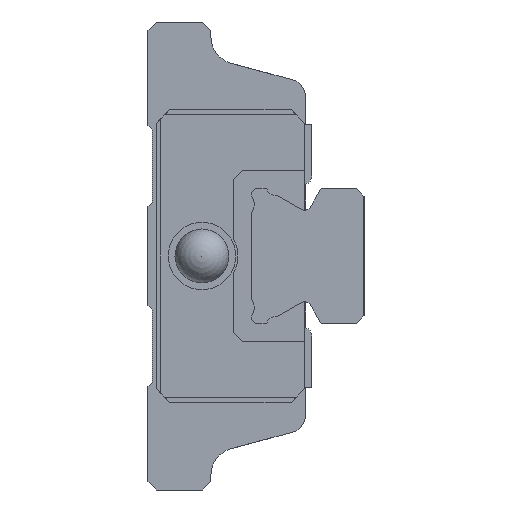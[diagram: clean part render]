
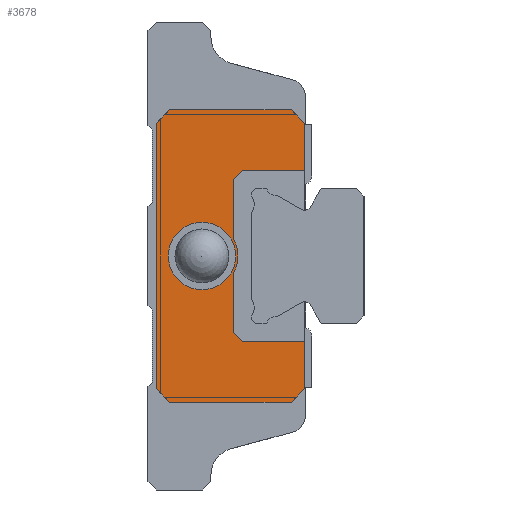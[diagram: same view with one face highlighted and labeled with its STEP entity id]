
A CAD part, left-side view. The second image highlights one B-rep face of the part: STEP entity #3678.
In plain terms, the highlighted planar face has unit normal (-1, 0, 0).
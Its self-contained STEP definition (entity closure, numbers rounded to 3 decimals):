
#36=LINE('',#5289,#396);
#82=LINE('',#5382,#442);
#97=LINE('',#5413,#457);
#104=LINE('',#5427,#464);
#108=LINE('',#5434,#468);
#116=LINE('',#5451,#476);
#119=LINE('',#5456,#479);
#127=LINE('',#5468,#487);
#158=LINE('',#5546,#518);
#269=LINE('',#5840,#629);
#274=LINE('',#5854,#634);
#275=LINE('',#5856,#635);
#276=LINE('',#5858,#636);
#277=LINE('',#5859,#637);
#278=LINE('',#5861,#638);
#396=VECTOR('',#4230,1000.);
#442=VECTOR('',#4294,1000.);
#457=VECTOR('',#4311,1000.);
#464=VECTOR('',#4322,1000.);
#468=VECTOR('',#4328,1000.);
#476=VECTOR('',#4338,1000.);
#479=VECTOR('',#4343,1000.);
#487=VECTOR('',#4359,1000.);
#518=VECTOR('',#4422,1000.);
#629=VECTOR('',#4681,1000.);
#634=VECTOR('',#4696,1000.);
#635=VECTOR('',#4697,1000.);
#636=VECTOR('',#4698,1000.);
#637=VECTOR('',#4699,1000.);
#638=VECTOR('',#4700,1000.);
#834=PLANE('',#3964);
#1476=ORIENTED_EDGE('',*,*,#1991,.T.);
#1477=ORIENTED_EDGE('',*,*,#2267,.F.);
#1478=ORIENTED_EDGE('',*,*,#2268,.T.);
#1479=ORIENTED_EDGE('',*,*,#2269,.T.);
#1480=ORIENTED_EDGE('',*,*,#2270,.T.);
#1481=ORIENTED_EDGE('',*,*,#2121,.F.);
#1482=ORIENTED_EDGE('',*,*,#2063,.F.);
#1483=ORIENTED_EDGE('',*,*,#2059,.F.);
#1484=ORIENTED_EDGE('',*,*,#2052,.F.);
#1485=ORIENTED_EDGE('',*,*,#2082,.F.);
#1486=ORIENTED_EDGE('',*,*,#2037,.F.);
#1487=ORIENTED_EDGE('',*,*,#2074,.F.);
#1488=ORIENTED_EDGE('',*,*,#2071,.F.);
#1489=ORIENTED_EDGE('',*,*,#2260,.F.);
#1490=ORIENTED_EDGE('',*,*,#2271,.T.);
#1491=ORIENTED_EDGE('',*,*,#2272,.T.);
#1492=ORIENTED_EDGE('',*,*,#2273,.T.);
#1991=EDGE_CURVE('',#2494,#2493,#36,.T.);
#2037=EDGE_CURVE('',#2531,#2532,#82,.T.);
#2052=EDGE_CURVE('',#2546,#2547,#97,.T.);
#2059=EDGE_CURVE('',#2547,#2552,#104,.T.);
#2063=EDGE_CURVE('',#2552,#2554,#108,.T.);
#2071=EDGE_CURVE('',#2561,#2562,#116,.T.);
#2074=EDGE_CURVE('',#2562,#2531,#119,.T.);
#2082=EDGE_CURVE('',#2532,#2546,#127,.T.);
#2121=EDGE_CURVE('',#2554,#2594,#158,.T.);
#2260=EDGE_CURVE('',#2682,#2561,#269,.T.);
#2267=EDGE_CURVE('',#2686,#2493,#2875,.T.);
#2268=EDGE_CURVE('',#2686,#2687,#274,.T.);
#2269=EDGE_CURVE('',#2687,#2688,#275,.T.);
#2270=EDGE_CURVE('',#2688,#2594,#276,.T.);
#2271=EDGE_CURVE('',#2682,#2689,#277,.T.);
#2272=EDGE_CURVE('',#2689,#2494,#278,.T.);
#2273=EDGE_CURVE('',#2690,#2690,#2876,.T.);
#2493=VERTEX_POINT('',#5288);
#2494=VERTEX_POINT('',#5290);
#2531=VERTEX_POINT('',#5381);
#2532=VERTEX_POINT('',#5383);
#2546=VERTEX_POINT('',#5412);
#2547=VERTEX_POINT('',#5414);
#2552=VERTEX_POINT('',#5428);
#2554=VERTEX_POINT('',#5435);
#2561=VERTEX_POINT('',#5450);
#2562=VERTEX_POINT('',#5452);
#2594=VERTEX_POINT('',#5547);
#2682=VERTEX_POINT('',#5839);
#2686=VERTEX_POINT('',#5853);
#2687=VERTEX_POINT('',#5855);
#2688=VERTEX_POINT('',#5857);
#2689=VERTEX_POINT('',#5860);
#2690=VERTEX_POINT('',#5863);
#2875=CIRCLE('',#3965,4.);
#2876=CIRCLE('',#3966,2.);
#3073=EDGE_LOOP('',(#1476,#1477,#1478,#1479,#1480,#1481,#1482,#1483,#1484,
#1485,#1486,#1487,#1488,#1489,#1490,#1491));
#3074=EDGE_LOOP('',(#1492));
#3381=FACE_BOUND('',#3073,.T.);
#3382=FACE_BOUND('',#3074,.T.);
#3678=ADVANCED_FACE('',(#3381,#3382),#834,.F.);
#3964=AXIS2_PLACEMENT_3D('',#5851,#4692,#4693);
#3965=AXIS2_PLACEMENT_3D('',#5852,#4694,#4695);
#3966=AXIS2_PLACEMENT_3D('',#5862,#4701,#4702);
#4230=DIRECTION('',(0.,0.,1.));
#4294=DIRECTION('',(0.,0.707,0.707));
#4311=DIRECTION('',(0.,-0.707,0.707));
#4322=DIRECTION('',(0.,-1.,0.));
#4328=DIRECTION('',(0.,-0.707,-0.707));
#4338=DIRECTION('',(0.,0.707,-0.707));
#4343=DIRECTION('',(0.,1.,0.));
#4359=DIRECTION('',(0.,0.,1.));
#4422=DIRECTION('',(0.,0.,-1.));
#4681=DIRECTION('',(0.,0.,-1.));
#4692=DIRECTION('',(1.,0.,0.));
#4693=DIRECTION('',(0.,0.,-1.));
#4694=DIRECTION('',(1.,0.,0.));
#4695=DIRECTION('',(0.,0.,-1.));
#4696=DIRECTION('',(0.,0.,1.));
#4697=DIRECTION('',(0.,-0.707,0.707));
#4698=DIRECTION('',(0.,-1.,0.));
#4699=DIRECTION('',(0.,1.,0.));
#4700=DIRECTION('',(0.,0.707,0.707));
#4701=DIRECTION('',(1.,0.,0.));
#4702=DIRECTION('',(0.,0.,-1.));
#5288=CARTESIAN_POINT('',(-18.7,10.,-1.936));
#5289=CARTESIAN_POINT('',(-18.7,10.,-8.5));
#5290=CARTESIAN_POINT('',(-18.7,10.,-8.5));
#5381=CARTESIAN_POINT('',(-18.7,17.099,-16.25));
#5382=CARTESIAN_POINT('',(-18.7,17.099,-16.25));
#5383=CARTESIAN_POINT('',(-18.7,18.599,-14.75));
#5412=CARTESIAN_POINT('',(-18.7,18.599,14.75));
#5413=CARTESIAN_POINT('',(-18.7,18.599,14.75));
#5414=CARTESIAN_POINT('',(-18.7,17.099,16.25));
#5427=CARTESIAN_POINT('',(-18.7,17.099,16.25));
#5428=CARTESIAN_POINT('',(-18.7,3.599,16.25));
#5434=CARTESIAN_POINT('',(-18.7,3.599,16.25));
#5435=CARTESIAN_POINT('',(-18.7,2.099,14.75));
#5450=CARTESIAN_POINT('',(-18.7,2.099,-14.75));
#5451=CARTESIAN_POINT('',(-18.7,2.099,-14.75));
#5452=CARTESIAN_POINT('',(-18.7,3.599,-16.25));
#5456=CARTESIAN_POINT('',(-18.7,3.599,-16.25));
#5468=CARTESIAN_POINT('',(-18.7,18.599,-14.75));
#5546=CARTESIAN_POINT('',(-18.7,2.099,14.75));
#5547=CARTESIAN_POINT('',(-18.7,2.099,9.5));
#5839=CARTESIAN_POINT('',(-18.7,2.099,-9.5));
#5840=CARTESIAN_POINT('',(-18.7,2.099,14.75));
#5851=CARTESIAN_POINT('',(-18.7,0.,0.));
#5852=CARTESIAN_POINT('',(-18.7,13.5,0.));
#5853=CARTESIAN_POINT('',(-18.7,10.,1.936));
#5854=CARTESIAN_POINT('',(-18.7,10.,-8.5));
#5855=CARTESIAN_POINT('',(-18.7,10.,8.5));
#5856=CARTESIAN_POINT('',(-18.7,10.,8.5));
#5857=CARTESIAN_POINT('',(-18.7,9.,9.5));
#5858=CARTESIAN_POINT('',(-18.7,9.,9.5));
#5859=CARTESIAN_POINT('',(-18.7,2.099,-9.5));
#5860=CARTESIAN_POINT('',(-18.7,9.,-9.5));
#5861=CARTESIAN_POINT('',(-18.7,9.,-9.5));
#5862=CARTESIAN_POINT('',(-18.7,13.5,0.));
#5863=CARTESIAN_POINT('',(-18.7,13.5,-2.));
